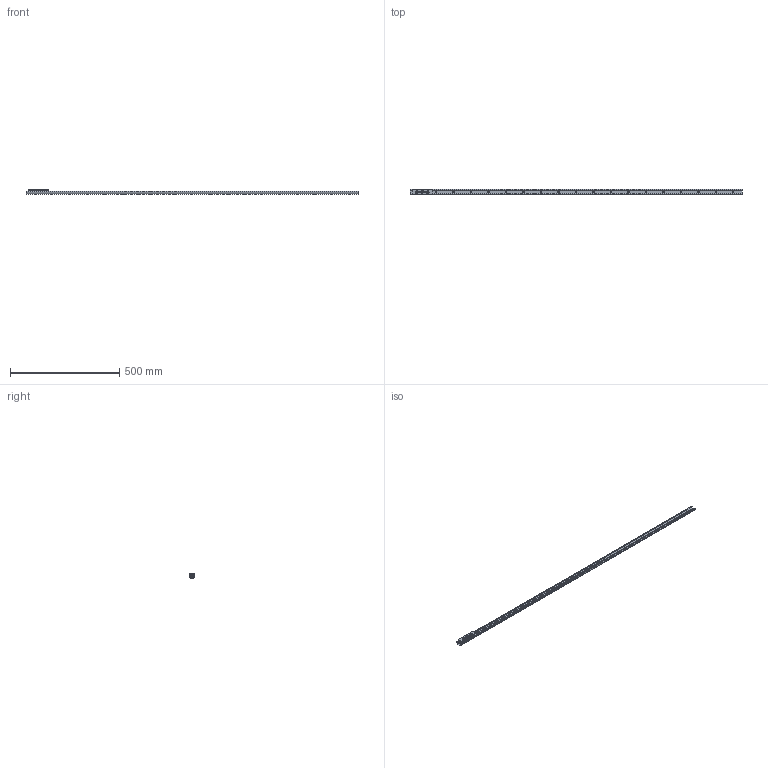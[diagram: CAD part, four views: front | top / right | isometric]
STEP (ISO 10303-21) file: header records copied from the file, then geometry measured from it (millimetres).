
FILE_DESCRIPTION( ( 'STEP AP214' ), '1' );
FILE_NAME( 'p:/temp/worker_21/temp/exporttempdir_4652_193_QOpn8/format_1/TEN26-1520-CEN26-92.stp', '2020-05-08T18:39:46', ( 'License CC BY-ND 4.0' ), ( 'CADENAS' ), ' ', 'PARTsolutions', ' ' );
FILE_SCHEMA( ( 'AUTOMOTIVE_DESIGN { 1 0 10303 214 1 1 1 1 }' ) );
Length unit declared in the file: millimetre
Products named in the file (6): TEN26-1520-CEN26-92; _TEN 26-1520; _CEN26-92_1; _RLN26(11.2_M5); _RLA26(11.2_M5); _LAN-26
Assembly tree (8 placements, depth 2):
  TEN26-1520-CEN26-92
    _TEN 26-1520
    _CEN26-92_1
    _RLN26(11.2_M5)  x2
    _RLA26(11.2_M5)
    _LAN-26  x3
Bounding box: 1520 x 26 x 22 mm (x, y, z)
Volume: 170455.1 mm3; surface area: 143590.8 mm2
Topology: 8 solids, 8 shells, 252 faces, 558 edges, 349 vertices
Faces by surface type: plane 131, cylinder 88, cone 24, bspline 9
Full cylindrical faces by diameter (mm): 2.5 x2, 4.134 x5, 4.5 x3, 5 x6, 6.5 x19, 9.3 x3, 11.2 x6, 11.6 x6, 15.7 x6, 16.7 x6
Entity records: 6056 total; most frequent: CARTESIAN_POINT 880, DIRECTION 826, ORIENTED_EDGE 610, AXIS2_PLACEMENT_3D 349, EDGE_LOOP 308, EDGE_CURVE 305, VERTEX_POINT 235, FACE_OUTER_BOUND 222
